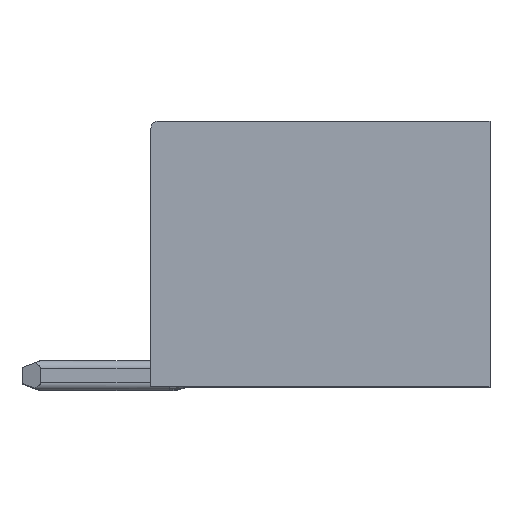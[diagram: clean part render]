
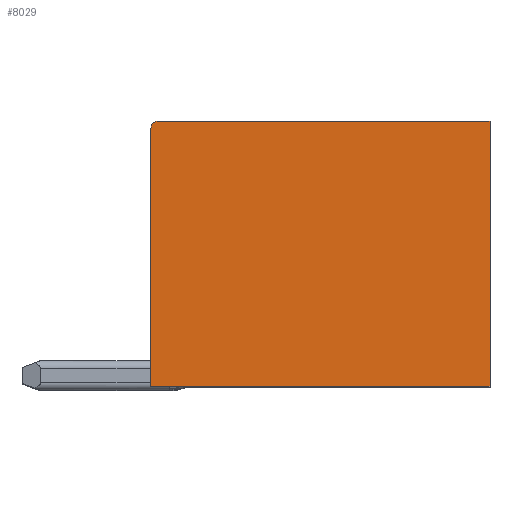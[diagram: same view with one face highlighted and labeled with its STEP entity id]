
A CAD part, top view. The second image highlights one B-rep face of the part: STEP entity #8029.
In plain terms, the highlighted planar face has unit normal (0, 0, 1).
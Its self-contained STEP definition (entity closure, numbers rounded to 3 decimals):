
#391 = FACE_OUTER_BOUND ( 'NONE', #524, .T. ) ;
#518 = DIRECTION ( 'NONE',  ( 0., 0., 1. ) ) ;
#524 = EDGE_LOOP ( 'NONE', ( #5066, #2021, #2855, #15284, #6725 ) ) ;
#574 = CARTESIAN_POINT ( 'NONE',  ( -1.337, 9.086, 14.227 ) ) ;
#717 = DIRECTION ( 'NONE',  ( 1., 0., 0. ) ) ;
#732 = CARTESIAN_POINT ( 'NONE',  ( -1.337, 2.086, 14.227 ) ) ;
#1009 = DIRECTION ( 'NONE',  ( 0., -1., 0. ) ) ;
#1098 = VERTEX_POINT ( 'NONE', #10581 ) ;
#1139 = VERTEX_POINT ( 'NONE', #10420 ) ;
#1869 = EDGE_CURVE ( 'NONE', #6322, #1098, #5021, .T. ) ;
#2021 = ORIENTED_EDGE ( 'NONE', *, *, #11304, .F. ) ;
#2379 = VECTOR ( 'NONE', #2718, 1000. ) ;
#2718 = DIRECTION ( 'NONE',  ( 1., 0., 0. ) ) ;
#2855 = ORIENTED_EDGE ( 'NONE', *, *, #14788, .F. ) ;
#2890 = CARTESIAN_POINT ( 'NONE',  ( -1.137, 9.086, 14.227 ) ) ;
#3129 = LINE ( 'NONE', #13569, #15422 ) ;
#3153 = AXIS2_PLACEMENT_3D ( 'NONE', #2890, #518, #15756 ) ;
#3370 = EDGE_CURVE ( 'NONE', #4161, #1139, #9806, .T. ) ;
#4161 = VERTEX_POINT ( 'NONE', #7424 ) ;
#4776 = VECTOR ( 'NONE', #717, 1000. ) ;
#5021 = LINE ( 'NONE', #9154, #2379 ) ;
#5066 = ORIENTED_EDGE ( 'NONE', *, *, #1869, .T. ) ;
#5091 = CARTESIAN_POINT ( 'NONE',  ( 7.863, 9.286, 14.227 ) ) ;
#6322 = VERTEX_POINT ( 'NONE', #732 ) ;
#6725 = ORIENTED_EDGE ( 'NONE', *, *, #16141, .T. ) ;
#6965 = VERTEX_POINT ( 'NONE', #5091 ) ;
#7424 = CARTESIAN_POINT ( 'NONE',  ( -1.137, 9.286, 14.227 ) ) ;
#7736 = AXIS2_PLACEMENT_3D ( 'NONE', #16561, #14017, #1009 ) ;
#8029 = ADVANCED_FACE ( 'NONE', ( #391 ), #8760, .T. ) ;
#8760 = PLANE ( 'NONE',  #7736 ) ;
#9154 = CARTESIAN_POINT ( 'NONE',  ( -8.271, 2.086, 14.227 ) ) ;
#9806 = CIRCLE ( 'NONE', #3153, 0.2 ) ;
#10420 = CARTESIAN_POINT ( 'NONE',  ( -1.337, 9.086, 14.227 ) ) ;
#10581 = CARTESIAN_POINT ( 'NONE',  ( 7.863, 2.086, 14.227 ) ) ;
#11304 = EDGE_CURVE ( 'NONE', #6965, #1098, #3129, .T. ) ;
#11563 = LINE ( 'NONE', #574, #12179 ) ;
#12179 = VECTOR ( 'NONE', #14799, 1000. ) ;
#13511 = DIRECTION ( 'NONE',  ( 0., -1., 0. ) ) ;
#13569 = CARTESIAN_POINT ( 'NONE',  ( 7.863, 2.086, 14.227 ) ) ;
#13773 = CARTESIAN_POINT ( 'NONE',  ( -1.337, 9.286, 14.227 ) ) ;
#14017 = DIRECTION ( 'NONE',  ( 0., 0., 1. ) ) ;
#14788 = EDGE_CURVE ( 'NONE', #4161, #6965, #15455, .T. ) ;
#14799 = DIRECTION ( 'NONE',  ( 0., -1., 0. ) ) ;
#15284 = ORIENTED_EDGE ( 'NONE', *, *, #3370, .T. ) ;
#15422 = VECTOR ( 'NONE', #13511, 1000. ) ;
#15455 = LINE ( 'NONE', #13773, #4776 ) ;
#15756 = DIRECTION ( 'NONE',  ( 0., -1., 0. ) ) ;
#16141 = EDGE_CURVE ( 'NONE', #1139, #6322, #11563, .T. ) ;
#16561 = CARTESIAN_POINT ( 'NONE',  ( -6.2, -2.323, 14.227 ) ) ;
